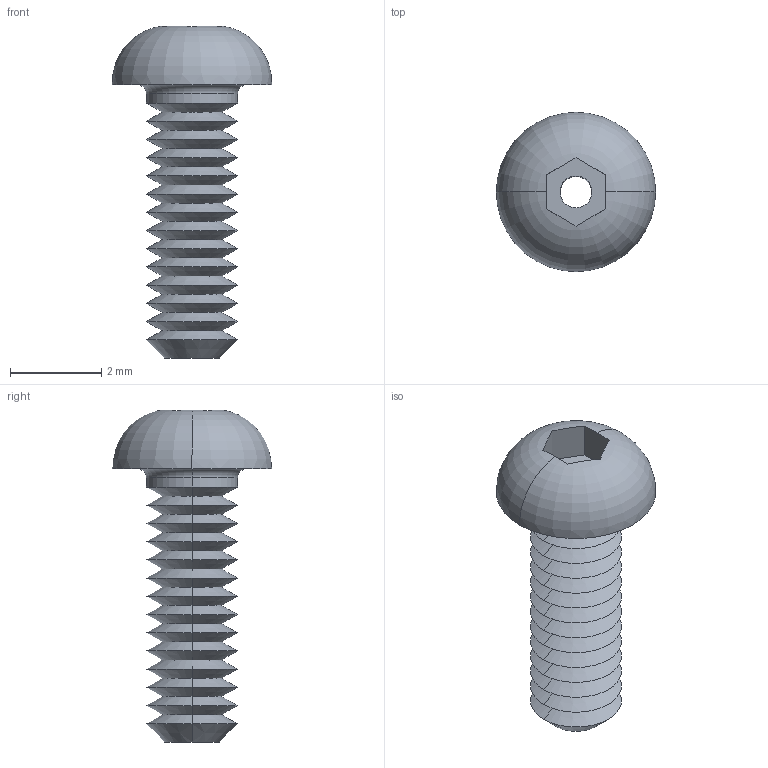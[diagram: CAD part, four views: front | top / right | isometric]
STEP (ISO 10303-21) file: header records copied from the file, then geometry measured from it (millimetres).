
FILE_DESCRIPTION (( 'STEP AP203' ), '1' );
FILE_NAME ('P0094.020-006-A2.step', '2019-07-12T16:49:16', ( '' ), ( '' ), 'SwSTEP 2.0', 'SolidWorks 2017', '' );
FILE_SCHEMA (( 'CONFIG_CONTROL_DESIGN' ));
Length unit declared in the file: millimetre
Products named in the file (1): P0094.020-006-A2
Bounding box: 3.5 x 3.5 x 7.29 mm (x, y, z)
Volume: 19.2 mm3; surface area: 100.9 mm2
Topology: 1 solids, 1 shells, 71 faces, 148 edges, 80 vertices
Faces by surface type: cone 54, plane 9, cylinder 4, torus 4
Entity records: 1945 total; most frequent: DIRECTION 354, CARTESIAN_POINT 336, ORIENTED_EDGE 296, EDGE_CURVE 148, AXIS2_PLACEMENT_3D 142, VERTEX_POINT 80, EDGE_LOOP 74, FACE_OUTER_BOUND 71
